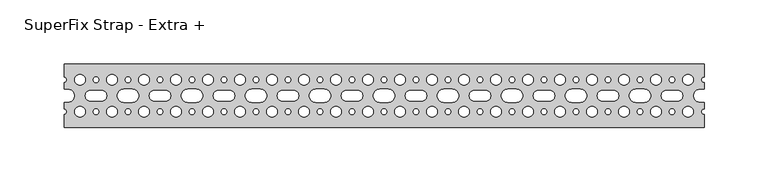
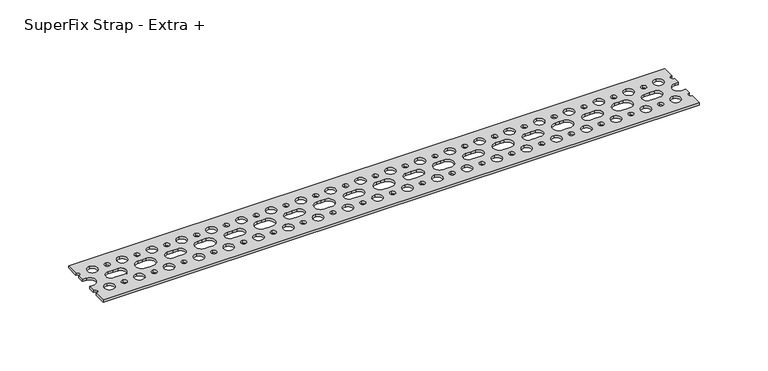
"""IFC4 building model written with IfcOpenShell, lengths in millimetres: valve geometry, Superfix Strap : SuperFix Strap - Extra +."""

from ifc_helpers import new_model, si_unit, point, frame_2d, origin, origin_with_axes, place, context, project, spatial, polyline, circle_curve, trimmed, segment, composite_curve, outline, extrude, source, transform, mapped, element, save


def superfix_strap_extra_1f4a646b(model_context):
    return source(origin(), model_context, "Body", "SweptSolid", [
        extrude(outline(composite_curve([segment(polyline([(250.0, -25.0), (-250.0, -25.0), (-250.0, -14.65)]), True, "CONTINUOUS"), segment(trimmed(circle_curve(frame_2d((-250.0, -12.5)), 2.15), [point((-250.0, -14.65))], [point((-250.0, -10.35))], True, "CARTESIAN"), True, "CONTINUOUS"), segment(polyline([(-250.0, -10.35), (-250.0, -5.15), (-246.75, -5.15)]), True, "CONTINUOUS"), segment(trimmed(circle_curve(frame_2d((-246.75, 0.0)), 5.15), [point((-246.75, -5.15))], [point((-246.75, 5.15))], True, "CARTESIAN"), True, "CONTINUOUS"), segment(polyline([(-246.75, 5.15), (-250.0, 5.15), (-250.0, 10.35)]), True, "CONTINUOUS"), segment(trimmed(circle_curve(frame_2d((-250.0, 12.5)), 2.15), [point((-250.0, 10.35))], [point((-250.0, 14.65))], True, "CARTESIAN"), True, "CONTINUOUS"), segment(polyline([(-250.0, 14.65), (-250.0, 25.0), (250.0, 25.0), (250.0, 14.65)]), True, "CONTINUOUS"), segment(trimmed(circle_curve(frame_2d((250.0, 12.5)), 2.15), [point((250.0, 14.65))], [point((250.0, 10.35))], True, "CARTESIAN"), True, "CONTINUOUS"), segment(polyline([(250.0, 10.35), (250.0, 5.15), (246.75, 5.15)]), True, "CONTINUOUS"), segment(trimmed(circle_curve(frame_2d((246.75, 0.0)), 5.15), [point((246.75, 5.15))], [point((246.75, -5.15))], True, "CARTESIAN"), True, "CONTINUOUS"), segment(polyline([(246.75, -5.15), (250.0, -5.15), (250.0, -10.35)]), True, "CONTINUOUS"), segment(trimmed(circle_curve(frame_2d((250.0, -12.5)), 2.15), [point((250.0, -10.35))], [point((250.0, -14.65))], True, "CARTESIAN"), True, "CONTINUOUS"), segment(polyline([(250.0, -14.65), (250.0, -25.0)]), True, "CONTINUOUS")], self_intersect=False), holes=[composite_curve([segment(polyline([(25.0, 4.15), (20.75, 4.15)]), True, "CONTINUOUS"), segment(trimmed(circle_curve(frame_2d((20.75, 0.0)), 4.15), [point((20.75, 4.15))], [point((20.75, -4.15))], True, "CARTESIAN"), True, "CONTINUOUS"), segment(polyline([(20.75, -4.15), (25.0, -4.15), (29.25, -4.15)]), True, "CONTINUOUS"), segment(trimmed(circle_curve(frame_2d((29.25, 0.0)), 4.15), [point((29.25, -4.15))], [point((29.25, 4.15))], True, "CARTESIAN"), True, "CONTINUOUS"), segment(polyline([(29.25, 4.15), (25.0, 4.15)]), True, "CONTINUOUS")], self_intersect=False), composite_curve([segment(polyline([(0.0, 5.15), (-3.25, 5.15)]), True, "CONTINUOUS"), segment(trimmed(circle_curve(frame_2d((-3.25, 0.0)), 5.15), [point((-3.25, 5.15))], [point((-3.25, -5.15))], True, "CARTESIAN"), True, "CONTINUOUS"), segment(polyline([(-3.25, -5.15), (0.0, -5.15), (3.25, -5.15)]), True, "CONTINUOUS"), segment(trimmed(circle_curve(frame_2d((3.25, 0.0)), 5.15), [point((3.25, -5.15))], [point((3.25, 5.15))], True, "CARTESIAN"), True, "CONTINUOUS"), segment(polyline([(3.25, 5.15), (0.0, 5.15)]), True, "CONTINUOUS")], self_intersect=False), composite_curve([segment(trimmed(circle_curve(frame_2d((0.0, 12.5)), 2.15), [point((0.0, 14.65))], [point((0.0, 10.35))], True, "CARTESIAN"), True, "CONTINUOUS"), segment(trimmed(circle_curve(frame_2d((0.0, 12.5)), 2.15), [point((0.0, 10.35))], [point((0.0, 14.65))], True, "CARTESIAN"), True, "CONTINUOUS")], self_intersect=False), composite_curve([segment(trimmed(circle_curve(frame_2d((25.0, 12.5)), 2.15), [point((25.0, 14.65))], [point((25.0, 10.35))], True, "CARTESIAN"), True, "CONTINUOUS"), segment(trimmed(circle_curve(frame_2d((25.0, 12.5)), 2.15), [point((25.0, 10.35))], [point((25.0, 14.65))], True, "CARTESIAN"), True, "CONTINUOUS")], self_intersect=False), composite_curve([segment(trimmed(circle_curve(frame_2d((25.0, -12.5)), 2.15), [point((25.0, -10.35))], [point((25.0, -14.65))], True, "CARTESIAN"), True, "CONTINUOUS"), segment(trimmed(circle_curve(frame_2d((25.0, -12.5)), 2.15), [point((25.0, -14.65))], [point((25.0, -10.35))], True, "CARTESIAN"), True, "CONTINUOUS")], self_intersect=False), composite_curve([segment(trimmed(circle_curve(frame_2d((0.0, -12.5)), 2.15), [point((0.0, -10.35))], [point((0.0, -14.65))], True, "CARTESIAN"), True, "CONTINUOUS"), segment(trimmed(circle_curve(frame_2d((0.0, -12.5)), 2.15), [point((0.0, -14.65))], [point((0.0, -10.35))], True, "CARTESIAN"), True, "CONTINUOUS")], self_intersect=False), composite_curve([segment(trimmed(circle_curve(frame_2d((12.5, 12.5)), 4.15), [point((12.5, 16.65))], [point((12.5, 8.35))], True, "CARTESIAN"), True, "CONTINUOUS"), segment(trimmed(circle_curve(frame_2d((12.5, 12.5)), 4.15), [point((12.5, 8.35))], [point((12.5, 16.65))], True, "CARTESIAN"), True, "CONTINUOUS")], self_intersect=False), composite_curve([segment(trimmed(circle_curve(frame_2d((12.5, -12.5)), 4.15), [point((12.5, -8.35))], [point((12.5, -16.65))], True, "CARTESIAN"), True, "CONTINUOUS"), segment(trimmed(circle_curve(frame_2d((12.5, -12.5)), 4.15), [point((12.5, -16.65))], [point((12.5, -8.35))], True, "CARTESIAN"), True, "CONTINUOUS")], self_intersect=False), composite_curve([segment(trimmed(circle_curve(frame_2d((37.5, 12.5)), 4.15), [point((37.5, 16.65))], [point((37.5, 8.35))], True, "CARTESIAN"), True, "CONTINUOUS"), segment(trimmed(circle_curve(frame_2d((37.5, 12.5)), 4.15), [point((37.5, 8.35))], [point((37.5, 16.65))], True, "CARTESIAN"), True, "CONTINUOUS")], self_intersect=False), composite_curve([segment(trimmed(circle_curve(frame_2d((37.5, -12.5)), 4.15), [point((37.5, -8.35))], [point((37.5, -16.65))], True, "CARTESIAN"), True, "CONTINUOUS"), segment(trimmed(circle_curve(frame_2d((37.5, -12.5)), 4.15), [point((37.5, -16.65))], [point((37.5, -8.35))], True, "CARTESIAN"), True, "CONTINUOUS")], self_intersect=False), composite_curve([segment(trimmed(circle_curve(frame_2d((-20.75, 0.0)), 4.15), [point((-20.75, -4.15))], [point((-20.75, 4.15))], True, "CARTESIAN"), True, "CONTINUOUS"), segment(polyline([(-20.75, 4.15), (-25.0, 4.15), (-29.25, 4.15)]), True, "CONTINUOUS"), segment(trimmed(circle_curve(frame_2d((-29.25, 0.0)), 4.15), [point((-29.25, 4.15))], [point((-29.25, -4.15))], True, "CARTESIAN"), True, "CONTINUOUS"), segment(polyline([(-29.25, -4.15), (-25.0, -4.15), (-20.75, -4.15)]), True, "CONTINUOUS")], self_intersect=False), composite_curve([segment(trimmed(circle_curve(frame_2d((-25.0, 12.5)), 2.15), [point((-25.0, 14.65))], [point((-25.0, 10.35))], True, "CARTESIAN"), True, "CONTINUOUS"), segment(trimmed(circle_curve(frame_2d((-25.0, 12.5)), 2.15), [point((-25.0, 10.35))], [point((-25.0, 14.65))], True, "CARTESIAN"), True, "CONTINUOUS")], self_intersect=False), composite_curve([segment(trimmed(circle_curve(frame_2d((-25.0, -12.5)), 2.15), [point((-25.0, -10.35))], [point((-25.0, -14.65))], True, "CARTESIAN"), True, "CONTINUOUS"), segment(trimmed(circle_curve(frame_2d((-25.0, -12.5)), 2.15), [point((-25.0, -14.65))], [point((-25.0, -10.35))], True, "CARTESIAN"), True, "CONTINUOUS")], self_intersect=False), composite_curve([segment(trimmed(circle_curve(frame_2d((-12.5, 12.5)), 4.15), [point((-12.5, 16.65))], [point((-12.5, 8.35))], True, "CARTESIAN"), True, "CONTINUOUS"), segment(trimmed(circle_curve(frame_2d((-12.5, 12.5)), 4.15), [point((-12.5, 8.35))], [point((-12.5, 16.65))], True, "CARTESIAN"), True, "CONTINUOUS")], self_intersect=False), composite_curve([segment(trimmed(circle_curve(frame_2d((-12.5, -12.5)), 4.15), [point((-12.5, -8.35))], [point((-12.5, -16.65))], True, "CARTESIAN"), True, "CONTINUOUS"), segment(trimmed(circle_curve(frame_2d((-12.5, -12.5)), 4.15), [point((-12.5, -16.65))], [point((-12.5, -8.35))], True, "CARTESIAN"), True, "CONTINUOUS")], self_intersect=False), composite_curve([segment(polyline([(46.75, -5.15), (50.0, -5.15), (53.25, -5.15)]), True, "CONTINUOUS"), segment(trimmed(circle_curve(frame_2d((53.25, 0.0)), 5.15), [point((53.25, -5.15))], [point((53.25, 5.15))], True, "CARTESIAN"), True, "CONTINUOUS"), segment(polyline([(53.25, 5.15), (50.0, 5.15), (46.75, 5.15)]), True, "CONTINUOUS"), segment(trimmed(circle_curve(frame_2d((46.75, 0.0)), 5.15), [point((46.75, 5.15))], [point((46.75, -5.15))], True, "CARTESIAN"), True, "CONTINUOUS")], self_intersect=False), composite_curve([segment(trimmed(circle_curve(frame_2d((50.0, 12.5)), 2.15), [point((50.0, 14.65))], [point((50.0, 10.35))], True, "CARTESIAN"), True, "CONTINUOUS"), segment(trimmed(circle_curve(frame_2d((50.0, 12.5)), 2.15), [point((50.0, 10.35))], [point((50.0, 14.65))], True, "CARTESIAN"), True, "CONTINUOUS")], self_intersect=False), composite_curve([segment(trimmed(circle_curve(frame_2d((50.0, -12.5)), 2.15), [point((50.0, -10.35))], [point((50.0, -14.65))], True, "CARTESIAN"), True, "CONTINUOUS"), segment(trimmed(circle_curve(frame_2d((50.0, -12.5)), 2.15), [point((50.0, -14.65))], [point((50.0, -10.35))], True, "CARTESIAN"), True, "CONTINUOUS")], self_intersect=False), composite_curve([segment(trimmed(circle_curve(frame_2d((-37.5, 12.5)), 4.15), [point((-37.5, 16.65))], [point((-37.5, 8.35))], True, "CARTESIAN"), True, "CONTINUOUS"), segment(trimmed(circle_curve(frame_2d((-37.5, 12.5)), 4.15), [point((-37.5, 8.35))], [point((-37.5, 16.65))], True, "CARTESIAN"), True, "CONTINUOUS")], self_intersect=False), composite_curve([segment(trimmed(circle_curve(frame_2d((-37.5, -12.5)), 4.15), [point((-37.5, -8.35))], [point((-37.5, -16.65))], True, "CARTESIAN"), True, "CONTINUOUS"), segment(trimmed(circle_curve(frame_2d((-37.5, -12.5)), 4.15), [point((-37.5, -16.65))], [point((-37.5, -8.35))], True, "CARTESIAN"), True, "CONTINUOUS")], self_intersect=False), composite_curve([segment(polyline([(125.0, 4.15), (120.75, 4.15)]), True, "CONTINUOUS"), segment(trimmed(circle_curve(frame_2d((120.75, 0.0)), 4.15), [point((120.75, 4.15))], [point((120.75, -4.15))], True, "CARTESIAN"), True, "CONTINUOUS"), segment(polyline([(120.75, -4.15), (125.0, -4.15), (129.25, -4.15)]), True, "CONTINUOUS"), segment(trimmed(circle_curve(frame_2d((129.25, 0.0)), 4.15), [point((129.25, -4.15))], [point((129.25, 4.15))], True, "CARTESIAN"), True, "CONTINUOUS"), segment(polyline([(129.25, 4.15), (125.0, 4.15)]), True, "CONTINUOUS")], self_intersect=False), composite_curve([segment(polyline([(100.0, 5.15), (96.75, 5.15)]), True, "CONTINUOUS"), segment(trimmed(circle_curve(frame_2d((96.75, 0.0)), 5.15), [point((96.75, 5.15))], [point((96.75, -5.15))], True, "CARTESIAN"), True, "CONTINUOUS"), segment(polyline([(96.75, -5.15), (100.0, -5.15), (103.25, -5.15)]), True, "CONTINUOUS"), segment(trimmed(circle_curve(frame_2d((103.25, 0.0)), 5.15), [point((103.25, -5.15))], [point((103.25, 5.15))], True, "CARTESIAN"), True, "CONTINUOUS"), segment(polyline([(103.25, 5.15), (100.0, 5.15)]), True, "CONTINUOUS")], self_intersect=False), composite_curve([segment(trimmed(circle_curve(frame_2d((100.0, 12.5)), 2.15), [point((100.0, 14.65))], [point((100.0, 10.35))], True, "CARTESIAN"), True, "CONTINUOUS"), segment(trimmed(circle_curve(frame_2d((100.0, 12.5)), 2.15), [point((100.0, 10.35))], [point((100.0, 14.65))], True, "CARTESIAN"), True, "CONTINUOUS")], self_intersect=False), composite_curve([segment(trimmed(circle_curve(frame_2d((125.0, 12.5)), 2.15), [point((125.0, 14.65))], [point((125.0, 10.35))], True, "CARTESIAN"), True, "CONTINUOUS"), segment(trimmed(circle_curve(frame_2d((125.0, 12.5)), 2.15), [point((125.0, 10.35))], [point((125.0, 14.65))], True, "CARTESIAN"), True, "CONTINUOUS")], self_intersect=False), composite_curve([segment(trimmed(circle_curve(frame_2d((125.0, -12.5)), 2.15), [point((125.0, -10.35))], [point((125.0, -14.65))], True, "CARTESIAN"), True, "CONTINUOUS"), segment(trimmed(circle_curve(frame_2d((125.0, -12.5)), 2.15), [point((125.0, -14.65))], [point((125.0, -10.35))], True, "CARTESIAN"), True, "CONTINUOUS")], self_intersect=False), composite_curve([segment(trimmed(circle_curve(frame_2d((100.0, -12.5)), 2.15), [point((100.0, -10.35))], [point((100.0, -14.65))], True, "CARTESIAN"), True, "CONTINUOUS"), segment(trimmed(circle_curve(frame_2d((100.0, -12.5)), 2.15), [point((100.0, -14.65))], [point((100.0, -10.35))], True, "CARTESIAN"), True, "CONTINUOUS")], self_intersect=False), composite_curve([segment(trimmed(circle_curve(frame_2d((112.5, 12.5)), 4.15), [point((112.5, 16.65))], [point((112.5, 8.35))], True, "CARTESIAN"), True, "CONTINUOUS"), segment(trimmed(circle_curve(frame_2d((112.5, 12.5)), 4.15), [point((112.5, 8.35))], [point((112.5, 16.65))], True, "CARTESIAN"), True, "CONTINUOUS")], self_intersect=False), composite_curve([segment(trimmed(circle_curve(frame_2d((112.5, -12.5)), 4.15), [point((112.5, -8.35))], [point((112.5, -16.65))], True, "CARTESIAN"), True, "CONTINUOUS"), segment(trimmed(circle_curve(frame_2d((112.5, -12.5)), 4.15), [point((112.5, -16.65))], [point((112.5, -8.35))], True, "CARTESIAN"), True, "CONTINUOUS")], self_intersect=False), composite_curve([segment(trimmed(circle_curve(frame_2d((137.5, 12.5)), 4.15), [point((137.5, 16.65))], [point((137.5, 8.35))], True, "CARTESIAN"), True, "CONTINUOUS"), segment(trimmed(circle_curve(frame_2d((137.5, 12.5)), 4.15), [point((137.5, 8.35))], [point((137.5, 16.65))], True, "CARTESIAN"), True, "CONTINUOUS")], self_intersect=False), composite_curve([segment(trimmed(circle_curve(frame_2d((137.5, -12.5)), 4.15), [point((137.5, -8.35))], [point((137.5, -16.65))], True, "CARTESIAN"), True, "CONTINUOUS"), segment(trimmed(circle_curve(frame_2d((137.5, -12.5)), 4.15), [point((137.5, -16.65))], [point((137.5, -8.35))], True, "CARTESIAN"), True, "CONTINUOUS")], self_intersect=False), composite_curve([segment(trimmed(circle_curve(frame_2d((79.25, 0.0)), 4.15), [point((79.25, -4.15))], [point((79.25, 4.15))], True, "CARTESIAN"), True, "CONTINUOUS"), segment(polyline([(79.25, 4.15), (75.0, 4.15), (70.75, 4.15)]), True, "CONTINUOUS"), segment(trimmed(circle_curve(frame_2d((70.75, 0.0)), 4.15), [point((70.75, 4.15))], [point((70.75, -4.15))], True, "CARTESIAN"), True, "CONTINUOUS"), segment(polyline([(70.75, -4.15), (75.0, -4.15), (79.25, -4.15)]), True, "CONTINUOUS")], self_intersect=False), composite_curve([segment(trimmed(circle_curve(frame_2d((75.0, 12.5)), 2.15), [point((75.0, 14.65))], [point((75.0, 10.35))], True, "CARTESIAN"), True, "CONTINUOUS"), segment(trimmed(circle_curve(frame_2d((75.0, 12.5)), 2.15), [point((75.0, 10.35))], [point((75.0, 14.65))], True, "CARTESIAN"), True, "CONTINUOUS")], self_intersect=False), composite_curve([segment(trimmed(circle_curve(frame_2d((75.0, -12.5)), 2.15), [point((75.0, -10.35))], [point((75.0, -14.65))], True, "CARTESIAN"), True, "CONTINUOUS"), segment(trimmed(circle_curve(frame_2d((75.0, -12.5)), 2.15), [point((75.0, -14.65))], [point((75.0, -10.35))], True, "CARTESIAN"), True, "CONTINUOUS")], self_intersect=False), composite_curve([segment(trimmed(circle_curve(frame_2d((87.5, 12.5)), 4.15), [point((87.5, 16.65))], [point((87.5, 8.35))], True, "CARTESIAN"), True, "CONTINUOUS"), segment(trimmed(circle_curve(frame_2d((87.5, 12.5)), 4.15), [point((87.5, 8.35))], [point((87.5, 16.65))], True, "CARTESIAN"), True, "CONTINUOUS")], self_intersect=False), composite_curve([segment(trimmed(circle_curve(frame_2d((87.5, -12.5)), 4.15), [point((87.5, -8.35))], [point((87.5, -16.65))], True, "CARTESIAN"), True, "CONTINUOUS"), segment(trimmed(circle_curve(frame_2d((87.5, -12.5)), 4.15), [point((87.5, -16.65))], [point((87.5, -8.35))], True, "CARTESIAN"), True, "CONTINUOUS")], self_intersect=False), composite_curve([segment(polyline([(146.75, -5.15), (150.0, -5.15), (153.25, -5.15)]), True, "CONTINUOUS"), segment(trimmed(circle_curve(frame_2d((153.25, 0.0)), 5.15), [point((153.25, -5.15))], [point((153.25, 5.15))], True, "CARTESIAN"), True, "CONTINUOUS"), segment(polyline([(153.25, 5.15), (150.0, 5.15), (146.75, 5.15)]), True, "CONTINUOUS"), segment(trimmed(circle_curve(frame_2d((146.75, 0.0)), 5.15), [point((146.75, 5.15))], [point((146.75, -5.15))], True, "CARTESIAN"), True, "CONTINUOUS")], self_intersect=False), composite_curve([segment(trimmed(circle_curve(frame_2d((150.0, 12.5)), 2.15), [point((150.0, 14.65))], [point((150.0, 10.35))], True, "CARTESIAN"), True, "CONTINUOUS"), segment(trimmed(circle_curve(frame_2d((150.0, 12.5)), 2.15), [point((150.0, 10.35))], [point((150.0, 14.65))], True, "CARTESIAN"), True, "CONTINUOUS")], self_intersect=False), composite_curve([segment(trimmed(circle_curve(frame_2d((150.0, -12.5)), 2.15), [point((150.0, -10.35))], [point((150.0, -14.65))], True, "CARTESIAN"), True, "CONTINUOUS"), segment(trimmed(circle_curve(frame_2d((150.0, -12.5)), 2.15), [point((150.0, -14.65))], [point((150.0, -10.35))], True, "CARTESIAN"), True, "CONTINUOUS")], self_intersect=False), composite_curve([segment(trimmed(circle_curve(frame_2d((62.5, 12.5)), 4.15), [point((62.5, 16.65))], [point((62.5, 8.35))], True, "CARTESIAN"), True, "CONTINUOUS"), segment(trimmed(circle_curve(frame_2d((62.5, 12.5)), 4.15), [point((62.5, 8.35))], [point((62.5, 16.65))], True, "CARTESIAN"), True, "CONTINUOUS")], self_intersect=False), composite_curve([segment(trimmed(circle_curve(frame_2d((62.5, -12.5)), 4.15), [point((62.5, -8.35))], [point((62.5, -16.65))], True, "CARTESIAN"), True, "CONTINUOUS"), segment(trimmed(circle_curve(frame_2d((62.5, -12.5)), 4.15), [point((62.5, -16.65))], [point((62.5, -8.35))], True, "CARTESIAN"), True, "CONTINUOUS")], self_intersect=False), composite_curve([segment(polyline([(-75.0, 4.15), (-79.25, 4.15)]), True, "CONTINUOUS"), segment(trimmed(circle_curve(frame_2d((-79.25, 0.0)), 4.15), [point((-79.25, 4.15))], [point((-79.25, -4.15))], True, "CARTESIAN"), True, "CONTINUOUS"), segment(polyline([(-79.25, -4.15), (-75.0, -4.15), (-70.75, -4.15)]), True, "CONTINUOUS"), segment(trimmed(circle_curve(frame_2d((-70.75, 0.0)), 4.15), [point((-70.75, -4.15))], [point((-70.75, 4.15))], True, "CARTESIAN"), True, "CONTINUOUS"), segment(polyline([(-70.75, 4.15), (-75.0, 4.15)]), True, "CONTINUOUS")], self_intersect=False), composite_curve([segment(polyline([(-100.0, 5.15), (-103.25, 5.15)]), True, "CONTINUOUS"), segment(trimmed(circle_curve(frame_2d((-103.25, 0.0)), 5.15), [point((-103.25, 5.15))], [point((-103.25, -5.15))], True, "CARTESIAN"), True, "CONTINUOUS"), segment(polyline([(-103.25, -5.15), (-100.0, -5.15), (-96.75, -5.15)]), True, "CONTINUOUS"), segment(trimmed(circle_curve(frame_2d((-96.75, 0.0)), 5.15), [point((-96.75, -5.15))], [point((-96.75, 5.15))], True, "CARTESIAN"), True, "CONTINUOUS"), segment(polyline([(-96.75, 5.15), (-100.0, 5.15)]), True, "CONTINUOUS")], self_intersect=False), composite_curve([segment(trimmed(circle_curve(frame_2d((-100.0, 12.5)), 2.15), [point((-100.0, 14.65))], [point((-100.0, 10.35))], True, "CARTESIAN"), True, "CONTINUOUS"), segment(trimmed(circle_curve(frame_2d((-100.0, 12.5)), 2.15), [point((-100.0, 10.35))], [point((-100.0, 14.65))], True, "CARTESIAN"), True, "CONTINUOUS")], self_intersect=False), composite_curve([segment(trimmed(circle_curve(frame_2d((-75.0, 12.5)), 2.15), [point((-75.0, 14.65))], [point((-75.0, 10.35))], True, "CARTESIAN"), True, "CONTINUOUS"), segment(trimmed(circle_curve(frame_2d((-75.0, 12.5)), 2.15), [point((-75.0, 10.35))], [point((-75.0, 14.65))], True, "CARTESIAN"), True, "CONTINUOUS")], self_intersect=False), composite_curve([segment(trimmed(circle_curve(frame_2d((-75.0, -12.5)), 2.15), [point((-75.0, -10.35))], [point((-75.0, -14.65))], True, "CARTESIAN"), True, "CONTINUOUS"), segment(trimmed(circle_curve(frame_2d((-75.0, -12.5)), 2.15), [point((-75.0, -14.65))], [point((-75.0, -10.35))], True, "CARTESIAN"), True, "CONTINUOUS")], self_intersect=False), composite_curve([segment(trimmed(circle_curve(frame_2d((-100.0, -12.5)), 2.15), [point((-100.0, -10.35))], [point((-100.0, -14.65))], True, "CARTESIAN"), True, "CONTINUOUS"), segment(trimmed(circle_curve(frame_2d((-100.0, -12.5)), 2.15), [point((-100.0, -14.65))], [point((-100.0, -10.35))], True, "CARTESIAN"), True, "CONTINUOUS")], self_intersect=False), composite_curve([segment(trimmed(circle_curve(frame_2d((-87.5, 12.5)), 4.15), [point((-87.5, 16.65))], [point((-87.5, 8.35))], True, "CARTESIAN"), True, "CONTINUOUS"), segment(trimmed(circle_curve(frame_2d((-87.5, 12.5)), 4.15), [point((-87.5, 8.35))], [point((-87.5, 16.65))], True, "CARTESIAN"), True, "CONTINUOUS")], self_intersect=False), composite_curve([segment(trimmed(circle_curve(frame_2d((-87.5, -12.5)), 4.15), [point((-87.5, -8.35))], [point((-87.5, -16.65))], True, "CARTESIAN"), True, "CONTINUOUS"), segment(trimmed(circle_curve(frame_2d((-87.5, -12.5)), 4.15), [point((-87.5, -16.65))], [point((-87.5, -8.35))], True, "CARTESIAN"), True, "CONTINUOUS")], self_intersect=False), composite_curve([segment(trimmed(circle_curve(frame_2d((-62.5, 12.5)), 4.15), [point((-62.5, 16.65))], [point((-62.5, 8.35))], True, "CARTESIAN"), True, "CONTINUOUS"), segment(trimmed(circle_curve(frame_2d((-62.5, 12.5)), 4.15), [point((-62.5, 8.35))], [point((-62.5, 16.65))], True, "CARTESIAN"), True, "CONTINUOUS")], self_intersect=False), composite_curve([segment(trimmed(circle_curve(frame_2d((-62.5, -12.5)), 4.15), [point((-62.5, -8.35))], [point((-62.5, -16.65))], True, "CARTESIAN"), True, "CONTINUOUS"), segment(trimmed(circle_curve(frame_2d((-62.5, -12.5)), 4.15), [point((-62.5, -16.65))], [point((-62.5, -8.35))], True, "CARTESIAN"), True, "CONTINUOUS")], self_intersect=False), composite_curve([segment(trimmed(circle_curve(frame_2d((-120.75, 0.0)), 4.15), [point((-120.75, -4.15))], [point((-120.75, 4.15))], True, "CARTESIAN"), True, "CONTINUOUS"), segment(polyline([(-120.75, 4.15), (-125.0, 4.15), (-129.25, 4.15)]), True, "CONTINUOUS"), segment(trimmed(circle_curve(frame_2d((-129.25, 0.0)), 4.15), [point((-129.25, 4.15))], [point((-129.25, -4.15))], True, "CARTESIAN"), True, "CONTINUOUS"), segment(polyline([(-129.25, -4.15), (-125.0, -4.15), (-120.75, -4.15)]), True, "CONTINUOUS")], self_intersect=False), composite_curve([segment(trimmed(circle_curve(frame_2d((-125.0, 12.5)), 2.15), [point((-125.0, 14.65))], [point((-125.0, 10.35))], True, "CARTESIAN"), True, "CONTINUOUS"), segment(trimmed(circle_curve(frame_2d((-125.0, 12.5)), 2.15), [point((-125.0, 10.35))], [point((-125.0, 14.65))], True, "CARTESIAN"), True, "CONTINUOUS")], self_intersect=False), composite_curve([segment(trimmed(circle_curve(frame_2d((-125.0, -12.5)), 2.15), [point((-125.0, -10.35))], [point((-125.0, -14.65))], True, "CARTESIAN"), True, "CONTINUOUS"), segment(trimmed(circle_curve(frame_2d((-125.0, -12.5)), 2.15), [point((-125.0, -14.65))], [point((-125.0, -10.35))], True, "CARTESIAN"), True, "CONTINUOUS")], self_intersect=False), composite_curve([segment(trimmed(circle_curve(frame_2d((-112.5, 12.5)), 4.15), [point((-112.5, 16.65))], [point((-112.5, 8.35))], True, "CARTESIAN"), True, "CONTINUOUS"), segment(trimmed(circle_curve(frame_2d((-112.5, 12.5)), 4.15), [point((-112.5, 8.35))], [point((-112.5, 16.65))], True, "CARTESIAN"), True, "CONTINUOUS")], self_intersect=False), composite_curve([segment(trimmed(circle_curve(frame_2d((-112.5, -12.5)), 4.15), [point((-112.5, -8.35))], [point((-112.5, -16.65))], True, "CARTESIAN"), True, "CONTINUOUS"), segment(trimmed(circle_curve(frame_2d((-112.5, -12.5)), 4.15), [point((-112.5, -16.65))], [point((-112.5, -8.35))], True, "CARTESIAN"), True, "CONTINUOUS")], self_intersect=False), composite_curve([segment(polyline([(-53.25, -5.15), (-50.0, -5.15), (-46.75, -5.15)]), True, "CONTINUOUS"), segment(trimmed(circle_curve(frame_2d((-46.75, 0.0)), 5.15), [point((-46.75, -5.15))], [point((-46.75, 5.15))], True, "CARTESIAN"), True, "CONTINUOUS"), segment(polyline([(-46.75, 5.15), (-50.0, 5.15), (-53.25, 5.15)]), True, "CONTINUOUS"), segment(trimmed(circle_curve(frame_2d((-53.25, 0.0)), 5.15), [point((-53.25, 5.15))], [point((-53.25, -5.15))], True, "CARTESIAN"), True, "CONTINUOUS")], self_intersect=False), composite_curve([segment(trimmed(circle_curve(frame_2d((-50.0, 12.5)), 2.15), [point((-50.0, 14.65))], [point((-50.0, 10.35))], True, "CARTESIAN"), True, "CONTINUOUS"), segment(trimmed(circle_curve(frame_2d((-50.0, 12.5)), 2.15), [point((-50.0, 10.35))], [point((-50.0, 14.65))], True, "CARTESIAN"), True, "CONTINUOUS")], self_intersect=False), composite_curve([segment(trimmed(circle_curve(frame_2d((-50.0, -12.5)), 2.15), [point((-50.0, -10.35))], [point((-50.0, -14.65))], True, "CARTESIAN"), True, "CONTINUOUS"), segment(trimmed(circle_curve(frame_2d((-50.0, -12.5)), 2.15), [point((-50.0, -14.65))], [point((-50.0, -10.35))], True, "CARTESIAN"), True, "CONTINUOUS")], self_intersect=False), composite_curve([segment(trimmed(circle_curve(frame_2d((-137.5, 12.5)), 4.15), [point((-137.5, 16.65))], [point((-137.5, 8.35))], True, "CARTESIAN"), True, "CONTINUOUS"), segment(trimmed(circle_curve(frame_2d((-137.5, 12.5)), 4.15), [point((-137.5, 8.35))], [point((-137.5, 16.65))], True, "CARTESIAN"), True, "CONTINUOUS")], self_intersect=False), composite_curve([segment(trimmed(circle_curve(frame_2d((-137.5, -12.5)), 4.15), [point((-137.5, -8.35))], [point((-137.5, -16.65))], True, "CARTESIAN"), True, "CONTINUOUS"), segment(trimmed(circle_curve(frame_2d((-137.5, -12.5)), 4.15), [point((-137.5, -16.65))], [point((-137.5, -8.35))], True, "CARTESIAN"), True, "CONTINUOUS")], self_intersect=False), composite_curve([segment(polyline([(225.0, 4.15), (220.75, 4.15)]), True, "CONTINUOUS"), segment(trimmed(circle_curve(frame_2d((220.75, 0.0)), 4.15), [point((220.75, 4.15))], [point((220.75, -4.15))], True, "CARTESIAN"), True, "CONTINUOUS"), segment(polyline([(220.75, -4.15), (225.0, -4.15), (229.25, -4.15)]), True, "CONTINUOUS"), segment(trimmed(circle_curve(frame_2d((229.25, 0.0)), 4.15), [point((229.25, -4.15))], [point((229.25, 4.15))], True, "CARTESIAN"), True, "CONTINUOUS"), segment(polyline([(229.25, 4.15), (225.0, 4.15)]), True, "CONTINUOUS")], self_intersect=False), composite_curve([segment(polyline([(200.0, 5.15), (196.75, 5.15)]), True, "CONTINUOUS"), segment(trimmed(circle_curve(frame_2d((196.75, 0.0)), 5.15), [point((196.75, 5.15))], [point((196.75, -5.15))], True, "CARTESIAN"), True, "CONTINUOUS"), segment(polyline([(196.75, -5.15), (200.0, -5.15), (203.25, -5.15)]), True, "CONTINUOUS"), segment(trimmed(circle_curve(frame_2d((203.25, 0.0)), 5.15), [point((203.25, -5.15))], [point((203.25, 5.15))], True, "CARTESIAN"), True, "CONTINUOUS"), segment(polyline([(203.25, 5.15), (200.0, 5.15)]), True, "CONTINUOUS")], self_intersect=False), composite_curve([segment(trimmed(circle_curve(frame_2d((200.0, 12.5)), 2.15), [point((200.0, 14.65))], [point((200.0, 10.35))], True, "CARTESIAN"), True, "CONTINUOUS"), segment(trimmed(circle_curve(frame_2d((200.0, 12.5)), 2.15), [point((200.0, 10.35))], [point((200.0, 14.65))], True, "CARTESIAN"), True, "CONTINUOUS")], self_intersect=False), composite_curve([segment(trimmed(circle_curve(frame_2d((225.0, 12.5)), 2.15), [point((225.0, 14.65))], [point((225.0, 10.35))], True, "CARTESIAN"), True, "CONTINUOUS"), segment(trimmed(circle_curve(frame_2d((225.0, 12.5)), 2.15), [point((225.0, 10.35))], [point((225.0, 14.65))], True, "CARTESIAN"), True, "CONTINUOUS")], self_intersect=False), composite_curve([segment(trimmed(circle_curve(frame_2d((225.0, -12.5)), 2.15), [point((225.0, -10.35))], [point((225.0, -14.65))], True, "CARTESIAN"), True, "CONTINUOUS"), segment(trimmed(circle_curve(frame_2d((225.0, -12.5)), 2.15), [point((225.0, -14.65))], [point((225.0, -10.35))], True, "CARTESIAN"), True, "CONTINUOUS")], self_intersect=False), composite_curve([segment(trimmed(circle_curve(frame_2d((200.0, -12.5)), 2.15), [point((200.0, -10.35))], [point((200.0, -14.65))], True, "CARTESIAN"), True, "CONTINUOUS"), segment(trimmed(circle_curve(frame_2d((200.0, -12.5)), 2.15), [point((200.0, -14.65))], [point((200.0, -10.35))], True, "CARTESIAN"), True, "CONTINUOUS")], self_intersect=False), composite_curve([segment(trimmed(circle_curve(frame_2d((212.5, 12.5)), 4.15), [point((212.5, 16.65))], [point((212.5, 8.35))], True, "CARTESIAN"), True, "CONTINUOUS"), segment(trimmed(circle_curve(frame_2d((212.5, 12.5)), 4.15), [point((212.5, 8.35))], [point((212.5, 16.65))], True, "CARTESIAN"), True, "CONTINUOUS")], self_intersect=False), composite_curve([segment(trimmed(circle_curve(frame_2d((212.5, -12.5)), 4.15), [point((212.5, -8.35))], [point((212.5, -16.65))], True, "CARTESIAN"), True, "CONTINUOUS"), segment(trimmed(circle_curve(frame_2d((212.5, -12.5)), 4.15), [point((212.5, -16.65))], [point((212.5, -8.35))], True, "CARTESIAN"), True, "CONTINUOUS")], self_intersect=False), composite_curve([segment(trimmed(circle_curve(frame_2d((237.5, 12.5)), 4.15), [point((237.5, 16.65))], [point((237.5, 8.35))], True, "CARTESIAN"), True, "CONTINUOUS"), segment(trimmed(circle_curve(frame_2d((237.5, 12.5)), 4.15), [point((237.5, 8.35))], [point((237.5, 16.65))], True, "CARTESIAN"), True, "CONTINUOUS")], self_intersect=False), composite_curve([segment(trimmed(circle_curve(frame_2d((237.5, -12.5)), 4.15), [point((237.5, -8.35))], [point((237.5, -16.65))], True, "CARTESIAN"), True, "CONTINUOUS"), segment(trimmed(circle_curve(frame_2d((237.5, -12.5)), 4.15), [point((237.5, -16.65))], [point((237.5, -8.35))], True, "CARTESIAN"), True, "CONTINUOUS")], self_intersect=False), composite_curve([segment(trimmed(circle_curve(frame_2d((179.25, 0.0)), 4.15), [point((179.25, -4.15))], [point((179.25, 4.15))], True, "CARTESIAN"), True, "CONTINUOUS"), segment(polyline([(179.25, 4.15), (175.0, 4.15), (170.75, 4.15)]), True, "CONTINUOUS"), segment(trimmed(circle_curve(frame_2d((170.75, 0.0)), 4.15), [point((170.75, 4.15))], [point((170.75, -4.15))], True, "CARTESIAN"), True, "CONTINUOUS"), segment(polyline([(170.75, -4.15), (175.0, -4.15), (179.25, -4.15)]), True, "CONTINUOUS")], self_intersect=False), composite_curve([segment(trimmed(circle_curve(frame_2d((175.0, 12.5)), 2.15), [point((175.0, 14.65))], [point((175.0, 10.35))], True, "CARTESIAN"), True, "CONTINUOUS"), segment(trimmed(circle_curve(frame_2d((175.0, 12.5)), 2.15), [point((175.0, 10.35))], [point((175.0, 14.65))], True, "CARTESIAN"), True, "CONTINUOUS")], self_intersect=False), composite_curve([segment(trimmed(circle_curve(frame_2d((175.0, -12.5)), 2.15), [point((175.0, -10.35))], [point((175.0, -14.65))], True, "CARTESIAN"), True, "CONTINUOUS"), segment(trimmed(circle_curve(frame_2d((175.0, -12.5)), 2.15), [point((175.0, -14.65))], [point((175.0, -10.35))], True, "CARTESIAN"), True, "CONTINUOUS")], self_intersect=False), composite_curve([segment(trimmed(circle_curve(frame_2d((187.5, 12.5)), 4.15), [point((187.5, 16.65))], [point((187.5, 8.35))], True, "CARTESIAN"), True, "CONTINUOUS"), segment(trimmed(circle_curve(frame_2d((187.5, 12.5)), 4.15), [point((187.5, 8.35))], [point((187.5, 16.65))], True, "CARTESIAN"), True, "CONTINUOUS")], self_intersect=False), composite_curve([segment(trimmed(circle_curve(frame_2d((187.5, -12.5)), 4.15), [point((187.5, -8.35))], [point((187.5, -16.65))], True, "CARTESIAN"), True, "CONTINUOUS"), segment(trimmed(circle_curve(frame_2d((187.5, -12.5)), 4.15), [point((187.5, -16.65))], [point((187.5, -8.35))], True, "CARTESIAN"), True, "CONTINUOUS")], self_intersect=False), composite_curve([segment(trimmed(circle_curve(frame_2d((162.5, 12.5)), 4.15), [point((162.5, 16.65))], [point((162.5, 8.35))], True, "CARTESIAN"), True, "CONTINUOUS"), segment(trimmed(circle_curve(frame_2d((162.5, 12.5)), 4.15), [point((162.5, 8.35))], [point((162.5, 16.65))], True, "CARTESIAN"), True, "CONTINUOUS")], self_intersect=False), composite_curve([segment(trimmed(circle_curve(frame_2d((162.5, -12.5)), 4.15), [point((162.5, -8.35))], [point((162.5, -16.65))], True, "CARTESIAN"), True, "CONTINUOUS"), segment(trimmed(circle_curve(frame_2d((162.5, -12.5)), 4.15), [point((162.5, -16.65))], [point((162.5, -8.35))], True, "CARTESIAN"), True, "CONTINUOUS")], self_intersect=False), composite_curve([segment(polyline([(-175.0, 4.15), (-179.25, 4.15)]), True, "CONTINUOUS"), segment(trimmed(circle_curve(frame_2d((-179.25, 0.0)), 4.15), [point((-179.25, 4.15))], [point((-179.25, -4.15))], True, "CARTESIAN"), True, "CONTINUOUS"), segment(polyline([(-179.25, -4.15), (-175.0, -4.15), (-170.75, -4.15)]), True, "CONTINUOUS"), segment(trimmed(circle_curve(frame_2d((-170.75, 0.0)), 4.15), [point((-170.75, -4.15))], [point((-170.75, 4.15))], True, "CARTESIAN"), True, "CONTINUOUS"), segment(polyline([(-170.75, 4.15), (-175.0, 4.15)]), True, "CONTINUOUS")], self_intersect=False), composite_curve([segment(polyline([(-200.0, 5.15), (-203.25, 5.15)]), True, "CONTINUOUS"), segment(trimmed(circle_curve(frame_2d((-203.25, 0.0)), 5.15), [point((-203.25, 5.15))], [point((-203.25, -5.15))], True, "CARTESIAN"), True, "CONTINUOUS"), segment(polyline([(-203.25, -5.15), (-200.0, -5.15), (-196.75, -5.15)]), True, "CONTINUOUS"), segment(trimmed(circle_curve(frame_2d((-196.75, 0.0)), 5.15), [point((-196.75, -5.15))], [point((-196.75, 5.15))], True, "CARTESIAN"), True, "CONTINUOUS"), segment(polyline([(-196.75, 5.15), (-200.0, 5.15)]), True, "CONTINUOUS")], self_intersect=False), composite_curve([segment(trimmed(circle_curve(frame_2d((-200.0, 12.5)), 2.15), [point((-200.0, 14.65))], [point((-200.0, 10.35))], True, "CARTESIAN"), True, "CONTINUOUS"), segment(trimmed(circle_curve(frame_2d((-200.0, 12.5)), 2.15), [point((-200.0, 10.35))], [point((-200.0, 14.65))], True, "CARTESIAN"), True, "CONTINUOUS")], self_intersect=False), composite_curve([segment(trimmed(circle_curve(frame_2d((-175.0, 12.5)), 2.15), [point((-175.0, 14.65))], [point((-175.0, 10.35))], True, "CARTESIAN"), True, "CONTINUOUS"), segment(trimmed(circle_curve(frame_2d((-175.0, 12.5)), 2.15), [point((-175.0, 10.35))], [point((-175.0, 14.65))], True, "CARTESIAN"), True, "CONTINUOUS")], self_intersect=False), composite_curve([segment(trimmed(circle_curve(frame_2d((-175.0, -12.5)), 2.15), [point((-175.0, -10.35))], [point((-175.0, -14.65))], True, "CARTESIAN"), True, "CONTINUOUS"), segment(trimmed(circle_curve(frame_2d((-175.0, -12.5)), 2.15), [point((-175.0, -14.65))], [point((-175.0, -10.35))], True, "CARTESIAN"), True, "CONTINUOUS")], self_intersect=False), composite_curve([segment(trimmed(circle_curve(frame_2d((-200.0, -12.5)), 2.15), [point((-200.0, -10.35))], [point((-200.0, -14.65))], True, "CARTESIAN"), True, "CONTINUOUS"), segment(trimmed(circle_curve(frame_2d((-200.0, -12.5)), 2.15), [point((-200.0, -14.65))], [point((-200.0, -10.35))], True, "CARTESIAN"), True, "CONTINUOUS")], self_intersect=False), composite_curve([segment(trimmed(circle_curve(frame_2d((-187.5, 12.5)), 4.15), [point((-187.5, 16.65))], [point((-187.5, 8.35))], True, "CARTESIAN"), True, "CONTINUOUS"), segment(trimmed(circle_curve(frame_2d((-187.5, 12.5)), 4.15), [point((-187.5, 8.35))], [point((-187.5, 16.65))], True, "CARTESIAN"), True, "CONTINUOUS")], self_intersect=False), composite_curve([segment(trimmed(circle_curve(frame_2d((-187.5, -12.5)), 4.15), [point((-187.5, -8.35))], [point((-187.5, -16.65))], True, "CARTESIAN"), True, "CONTINUOUS"), segment(trimmed(circle_curve(frame_2d((-187.5, -12.5)), 4.15), [point((-187.5, -16.65))], [point((-187.5, -8.35))], True, "CARTESIAN"), True, "CONTINUOUS")], self_intersect=False), composite_curve([segment(trimmed(circle_curve(frame_2d((-162.5, 12.5)), 4.15), [point((-162.5, 16.65))], [point((-162.5, 8.35))], True, "CARTESIAN"), True, "CONTINUOUS"), segment(trimmed(circle_curve(frame_2d((-162.5, 12.5)), 4.15), [point((-162.5, 8.35))], [point((-162.5, 16.65))], True, "CARTESIAN"), True, "CONTINUOUS")], self_intersect=False), composite_curve([segment(trimmed(circle_curve(frame_2d((-162.5, -12.5)), 4.15), [point((-162.5, -8.35))], [point((-162.5, -16.65))], True, "CARTESIAN"), True, "CONTINUOUS"), segment(trimmed(circle_curve(frame_2d((-162.5, -12.5)), 4.15), [point((-162.5, -16.65))], [point((-162.5, -8.35))], True, "CARTESIAN"), True, "CONTINUOUS")], self_intersect=False), composite_curve([segment(trimmed(circle_curve(frame_2d((-220.75, 0.0)), 4.15), [point((-220.75, -4.15))], [point((-220.75, 4.15))], True, "CARTESIAN"), True, "CONTINUOUS"), segment(polyline([(-220.75, 4.15), (-225.0, 4.15), (-229.25, 4.15)]), True, "CONTINUOUS"), segment(trimmed(circle_curve(frame_2d((-229.25, 0.0)), 4.15), [point((-229.25, 4.15))], [point((-229.25, -4.15))], True, "CARTESIAN"), True, "CONTINUOUS"), segment(polyline([(-229.25, -4.15), (-225.0, -4.15), (-220.75, -4.15)]), True, "CONTINUOUS")], self_intersect=False), composite_curve([segment(trimmed(circle_curve(frame_2d((-225.0, 12.5)), 2.15), [point((-225.0, 14.65))], [point((-225.0, 10.35))], True, "CARTESIAN"), True, "CONTINUOUS"), segment(trimmed(circle_curve(frame_2d((-225.0, 12.5)), 2.15), [point((-225.0, 10.35))], [point((-225.0, 14.65))], True, "CARTESIAN"), True, "CONTINUOUS")], self_intersect=False), composite_curve([segment(trimmed(circle_curve(frame_2d((-225.0, -12.5)), 2.15), [point((-225.0, -10.35))], [point((-225.0, -14.65))], True, "CARTESIAN"), True, "CONTINUOUS"), segment(trimmed(circle_curve(frame_2d((-225.0, -12.5)), 2.15), [point((-225.0, -14.65))], [point((-225.0, -10.35))], True, "CARTESIAN"), True, "CONTINUOUS")], self_intersect=False), composite_curve([segment(trimmed(circle_curve(frame_2d((-212.5, 12.5)), 4.15), [point((-212.5, 16.65))], [point((-212.5, 8.35))], True, "CARTESIAN"), True, "CONTINUOUS"), segment(trimmed(circle_curve(frame_2d((-212.5, 12.5)), 4.15), [point((-212.5, 8.35))], [point((-212.5, 16.65))], True, "CARTESIAN"), True, "CONTINUOUS")], self_intersect=False), composite_curve([segment(trimmed(circle_curve(frame_2d((-212.5, -12.5)), 4.15), [point((-212.5, -8.35))], [point((-212.5, -16.65))], True, "CARTESIAN"), True, "CONTINUOUS"), segment(trimmed(circle_curve(frame_2d((-212.5, -12.5)), 4.15), [point((-212.5, -16.65))], [point((-212.5, -8.35))], True, "CARTESIAN"), True, "CONTINUOUS")], self_intersect=False), composite_curve([segment(polyline([(-153.25, -5.15), (-150.0, -5.15), (-146.75, -5.15)]), True, "CONTINUOUS"), segment(trimmed(circle_curve(frame_2d((-146.75, 0.0)), 5.15), [point((-146.75, -5.15))], [point((-146.75, 5.15))], True, "CARTESIAN"), True, "CONTINUOUS"), segment(polyline([(-146.75, 5.15), (-150.0, 5.15), (-153.25, 5.15)]), True, "CONTINUOUS"), segment(trimmed(circle_curve(frame_2d((-153.25, 0.0)), 5.15), [point((-153.25, 5.15))], [point((-153.25, -5.15))], True, "CARTESIAN"), True, "CONTINUOUS")], self_intersect=False), composite_curve([segment(trimmed(circle_curve(frame_2d((-150.0, 12.5)), 2.15), [point((-150.0, 14.65))], [point((-150.0, 10.35))], True, "CARTESIAN"), True, "CONTINUOUS"), segment(trimmed(circle_curve(frame_2d((-150.0, 12.5)), 2.15), [point((-150.0, 10.35))], [point((-150.0, 14.65))], True, "CARTESIAN"), True, "CONTINUOUS")], self_intersect=False), composite_curve([segment(trimmed(circle_curve(frame_2d((-150.0, -12.5)), 2.15), [point((-150.0, -10.35))], [point((-150.0, -14.65))], True, "CARTESIAN"), True, "CONTINUOUS"), segment(trimmed(circle_curve(frame_2d((-150.0, -12.5)), 2.15), [point((-150.0, -14.65))], [point((-150.0, -10.35))], True, "CARTESIAN"), True, "CONTINUOUS")], self_intersect=False), composite_curve([segment(trimmed(circle_curve(frame_2d((-237.5, 12.5)), 4.15), [point((-237.5, 16.65))], [point((-237.5, 8.35))], True, "CARTESIAN"), True, "CONTINUOUS"), segment(trimmed(circle_curve(frame_2d((-237.5, 12.5)), 4.15), [point((-237.5, 8.35))], [point((-237.5, 16.65))], True, "CARTESIAN"), True, "CONTINUOUS")], self_intersect=False), composite_curve([segment(trimmed(circle_curve(frame_2d((-237.5, -12.5)), 4.15), [point((-237.5, -8.35))], [point((-237.5, -16.65))], True, "CARTESIAN"), True, "CONTINUOUS"), segment(trimmed(circle_curve(frame_2d((-237.5, -12.5)), 4.15), [point((-237.5, -16.65))], [point((-237.5, -8.35))], True, "CARTESIAN"), True, "CONTINUOUS")], self_intersect=False)]), origin_with_axes(), (0.0, 0.0, 1.0), 2.0),
    ])


if __name__ == "__main__":
    model = new_model("IFC4")
    model_context = context("Model", 3, world=origin())
    ifc_project = project(units=[si_unit("LENGTHUNIT", "METRE", prefix="MILLI")], contexts=[model_context])
    site = spatial("IfcSite", under=ifc_project)
    building = spatial("IfcBuilding", under=site)
    placement = place(None, origin())
    superfix_strap_extra_shape = superfix_strap_extra_1f4a646b(model_context)
    element("IfcValve", 1, ObjectType="Superfix Strap : SuperFix Strap - Extra +", at=placement, inside=building, context=model_context, shape_type="MappedRepresentation", body=[
        mapped(superfix_strap_extra_shape, transform((0.0, 0.0, 0.0), x_axis=(1.0, 0.0, 0.0), y_axis=(0.0, 1.0, 0.0), z_axis=(0.0, 0.0, 1.0))),
    ])
    save(model, "model.ifc")
